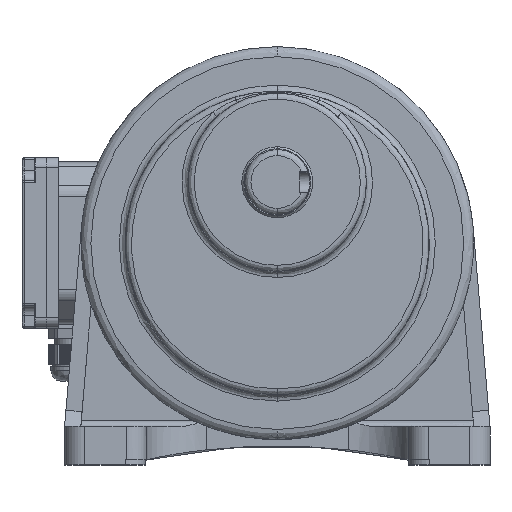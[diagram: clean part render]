
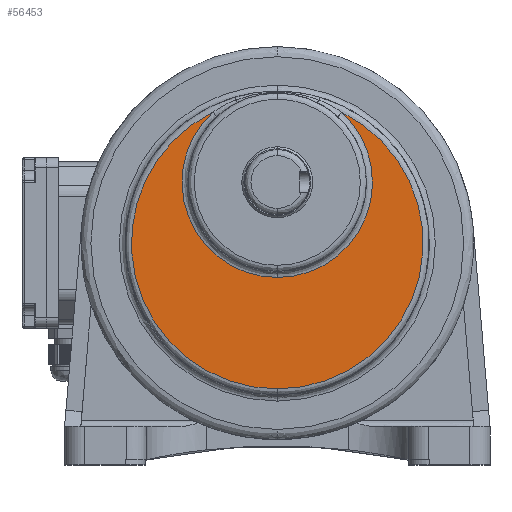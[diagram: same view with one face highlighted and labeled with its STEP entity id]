
A CAD part, top view. The second image highlights one B-rep face of the part: STEP entity #56453.
In plain terms, the highlighted planar face has unit normal (0, 0, 1) as drawn and (0, 1, 0) by its records, which use the part's own axes.
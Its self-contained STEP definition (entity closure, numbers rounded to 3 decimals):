
#6842 = CARTESIAN_POINT ( 'NONE',  ( -31.828, 0., -34.583 ) ) ;
#7224 = CARTESIAN_POINT ( 'NONE',  ( 0., 0., 102. ) ) ;
#7225 = CARTESIAN_POINT ( 'NONE',  ( 31.828, 0., -34.583 ) ) ;
#7343 = CARTESIAN_POINT ( 'NONE',  ( 0., 0., 47. ) ) ;
#13301 = CIRCLE ( 'NONE', #25956, 72. ) ;
#13317 = CIRCLE ( 'NONE', #25977, 47. ) ;
#14183 = CIRCLE ( 'NONE', #77412, 47. ) ;
#14301 = CIRCLE ( 'NONE', #77603, 72. ) ;
#16563 = PLANE ( 'NONE',  #108526 ) ;
#16564 = CARTESIAN_POINT ( 'NONE',  ( 78., 0., -48.063 ) ) ;
#16567 = DIRECTION ( 'NONE',  ( 0., 1., 0. ) ) ;
#16568 = DIRECTION ( 'NONE',  ( 0., 0., 1. ) ) ;
#25956 = AXIS2_PLACEMENT_3D ( 'NONE', #49527, #49529, #49533 ) ;
#25977 = AXIS2_PLACEMENT_3D ( 'NONE', #49648, #49649, #49653 ) ;
#31458 = VERTEX_POINT ( 'NONE', #6842 ) ;
#31840 = VERTEX_POINT ( 'NONE', #7224 ) ;
#31841 = VERTEX_POINT ( 'NONE', #7225 ) ;
#31959 = VERTEX_POINT ( 'NONE', #7343 ) ;
#49527 = CARTESIAN_POINT ( 'NONE',  ( 0., 0., 30. ) ) ;
#49529 = DIRECTION ( 'NONE',  ( 0., 1., 0. ) ) ;
#49533 = DIRECTION ( 'NONE',  ( 0., 0., 1. ) ) ;
#49648 = CARTESIAN_POINT ( 'NONE',  ( 0., 0., 0. ) ) ;
#49649 = DIRECTION ( 'NONE',  ( 0., -1., 0. ) ) ;
#49653 = DIRECTION ( 'NONE',  ( 0., 0., 1. ) ) ;
#56453 = ADVANCED_FACE ( 'NONE', ( #108528 ), #16563, .T. ) ;
#66976 = EDGE_CURVE ( 'NONE', #31840, #31841, #13301, .T. ) ;
#66986 = EDGE_CURVE ( 'NONE', #31841, #31959, #13317, .T. ) ;
#77412 = AXIS2_PLACEMENT_3D ( 'NONE', #109330, #109364, #109365 ) ;
#77603 = AXIS2_PLACEMENT_3D ( 'NONE', #109868, #109869, #109870 ) ;
#104706 = ORIENTED_EDGE ( 'NONE', *, *, #106035, .T. ) ;
#104714 = ORIENTED_EDGE ( 'NONE', *, *, #106326, .T. ) ;
#104716 = ORIENTED_EDGE ( 'NONE', *, *, #66976, .T. ) ;
#104718 = ORIENTED_EDGE ( 'NONE', *, *, #66986, .T. ) ;
#106035 = EDGE_CURVE ( 'NONE', #31959, #31458, #14183, .T. ) ;
#106326 = EDGE_CURVE ( 'NONE', #31458, #31840, #14301, .T. ) ;
#108526 = AXIS2_PLACEMENT_3D ( 'NONE', #16564, #16567, #16568 ) ;
#108528 = FACE_OUTER_BOUND ( 'NONE', #147659, .T. ) ;
#109330 = CARTESIAN_POINT ( 'NONE',  ( 0., 0., 0. ) ) ;
#109364 = DIRECTION ( 'NONE',  ( 0., -1., 0. ) ) ;
#109365 = DIRECTION ( 'NONE',  ( 0., 0., 1. ) ) ;
#109868 = CARTESIAN_POINT ( 'NONE',  ( 0., 0., 30. ) ) ;
#109869 = DIRECTION ( 'NONE',  ( 0., 1., 0. ) ) ;
#109870 = DIRECTION ( 'NONE',  ( 0., 0., 1. ) ) ;
#147659 = EDGE_LOOP ( 'NONE', ( #104714, #104716, #104718, #104706 ) ) ;
